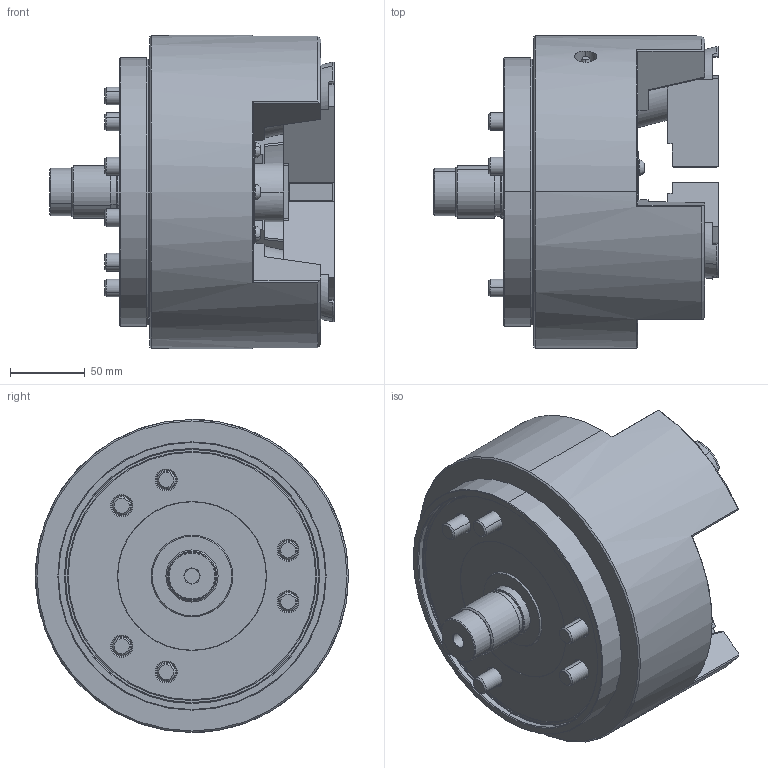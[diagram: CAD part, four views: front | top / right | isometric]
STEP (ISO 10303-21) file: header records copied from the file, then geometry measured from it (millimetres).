
FILE_DESCRIPTION (( 'STEP AP214' ), '1' );
FILE_NAME ('PU208_UC.STEP', '2019-10-18T09:00:48', ( '' ), ( '' ), 'SwSTEP 2.0', 'SolidWorks 2017', '' );
FILE_SCHEMA (( 'AUTOMOTIVE_DESIGN' ));
Length unit declared in the file: millimetre
Products named in the file (4): 0030112030; 61P332356; PU208_UC; 結合
Assembly tree (7 placements, depth 2):
  PU208_UC
    61P332356  x3
    0030112030  x3
    結合
Bounding box: 191 x 210 x 210 mm (x, y, z)
Volume: 3342147.8 mm3; surface area: 279183.6 mm2
Topology: 7 solids, 7 shells, 1104 faces, 2757 edges, 1731 vertices
Faces by surface type: plane 530, cone 211, cylinder 168, bspline 156, torus 39
Entity records: 36155 total; most frequent: CARTESIAN_POINT 13162, ORIENTED_EDGE 5006, DIRECTION 4264, EDGE_CURVE 2503, VERTEX_POINT 1593, AXIS2_PLACEMENT_3D 1456, VECTOR 1352, LINE 1352
